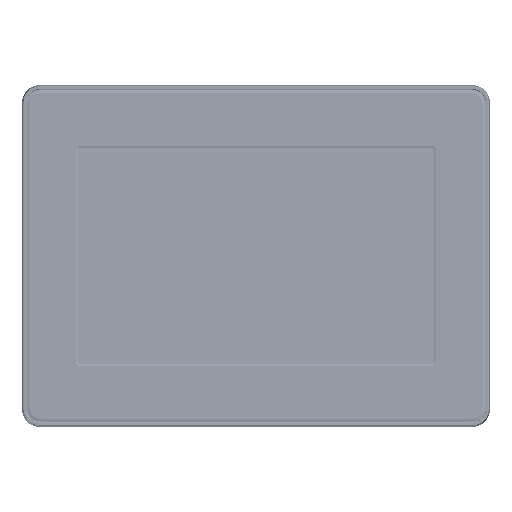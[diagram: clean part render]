
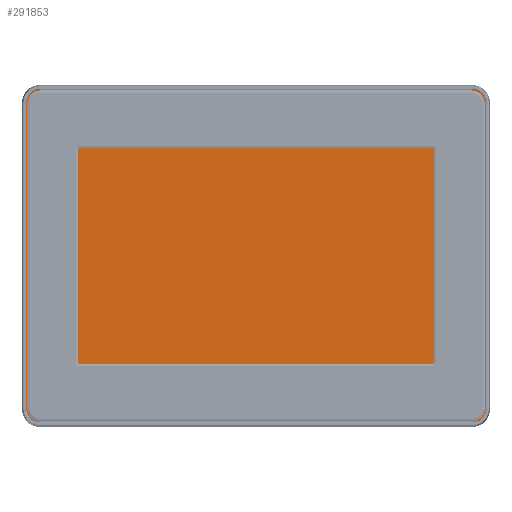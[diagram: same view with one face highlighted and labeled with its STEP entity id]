
A CAD part, top view. The second image highlights one B-rep face of the part: STEP entity #291853.
In plain terms, the highlighted planar face has unit normal (0, 0, 1).
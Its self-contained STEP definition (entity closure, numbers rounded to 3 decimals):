
#291596=CARTESIAN_POINT('',(-94.,72.402,6.2));
#291597=VERTEX_POINT('',#291596);
#291598=CARTESIAN_POINT('',(-99.902,66.5,6.2));
#291599=VERTEX_POINT('',#291598);
#291600=CARTESIAN_POINT('',(-94.0,66.5,6.2));
#291601=DIRECTION('',(0.0,0.0,1.));
#291602=DIRECTION('',(0.,1.,0.0));
#291603=AXIS2_PLACEMENT_3D('',#291600,#291601,#291602);
#291604=CIRCLE('',#291603,5.902);
#291605=EDGE_CURVE('',#291597,#291599,#291604,.T.);
#291640=CARTESIAN_POINT('',(-99.902,-66.5,6.2));
#291641=VERTEX_POINT('',#291640);
#291642=CARTESIAN_POINT('',(-99.902,-66.5,6.2));
#291643=DIRECTION('',(0.0,1.0,0.0));
#291644=VECTOR('',#291643,133.);
#291645=LINE('',#291642,#291644);
#291646=EDGE_CURVE('',#291641,#291599,#291645,.T.);
#291672=CARTESIAN_POINT('',(-94.,-72.402,6.2));
#291673=VERTEX_POINT('',#291672);
#291674=CARTESIAN_POINT('',(-94.0,-66.5,6.2));
#291675=DIRECTION('',(0.0,0.0,1.0));
#291676=DIRECTION('',(-1.,0.,0.0));
#291677=AXIS2_PLACEMENT_3D('',#291674,#291675,#291676);
#291678=CIRCLE('',#291677,5.902);
#291679=EDGE_CURVE('',#291641,#291673,#291678,.T.);
#291706=CARTESIAN_POINT('',(94.,-72.402,6.2));
#291707=VERTEX_POINT('',#291706);
#291708=CARTESIAN_POINT('',(94.,-72.402,6.2));
#291709=DIRECTION('',(-1.0,0.0,0.0));
#291710=VECTOR('',#291709,188.);
#291711=LINE('',#291708,#291710);
#291712=EDGE_CURVE('',#291707,#291673,#291711,.T.);
#291738=CARTESIAN_POINT('',(99.902,-66.5,6.2));
#291739=VERTEX_POINT('',#291738);
#291740=CARTESIAN_POINT('',(94.0,-66.5,6.2));
#291741=DIRECTION('',(0.0,0.0,1.));
#291742=DIRECTION('',(0.,-1.,0.0));
#291743=AXIS2_PLACEMENT_3D('',#291740,#291741,#291742);
#291744=CIRCLE('',#291743,5.902);
#291745=EDGE_CURVE('',#291707,#291739,#291744,.T.);
#291772=CARTESIAN_POINT('',(99.902,66.5,6.2));
#291773=VERTEX_POINT('',#291772);
#291774=CARTESIAN_POINT('',(94.,72.402,6.2));
#291775=VERTEX_POINT('',#291774);
#291776=CARTESIAN_POINT('',(94.0,66.5,6.2));
#291777=DIRECTION('',(0.0,0.0,1.0));
#291778=DIRECTION('',(1.,0.,0.0));
#291779=AXIS2_PLACEMENT_3D('',#291776,#291777,#291778);
#291780=CIRCLE('',#291779,5.902);
#291781=EDGE_CURVE('',#291773,#291775,#291780,.T.);
#291816=CARTESIAN_POINT('',(99.902,66.5,6.2));
#291817=DIRECTION('',(0.0,-1.0,0.0));
#291818=VECTOR('',#291817,133.);
#291819=LINE('',#291816,#291818);
#291820=EDGE_CURVE('',#291773,#291739,#291819,.T.);
#291833=CARTESIAN_POINT('',(0.0,0.0,6.2));
#291834=DIRECTION('',(0.0,0.0,1.0));
#291835=DIRECTION('',(1.0,0.0,0.0));
#291836=AXIS2_PLACEMENT_3D('',#291833,#291834,#291835);
#291837=PLANE('',#291836);
#291838=ORIENTED_EDGE('',*,*,#291820,.F.);
#291839=ORIENTED_EDGE('',*,*,#291781,.T.);
#291840=CARTESIAN_POINT('',(-94.,72.402,6.2));
#291841=DIRECTION('',(1.0,0.0,0.0));
#291842=VECTOR('',#291841,188.);
#291843=LINE('',#291840,#291842);
#291844=EDGE_CURVE('',#291597,#291775,#291843,.T.);
#291845=ORIENTED_EDGE('',*,*,#291844,.F.);
#291846=ORIENTED_EDGE('',*,*,#291605,.T.);
#291847=ORIENTED_EDGE('',*,*,#291646,.F.);
#291848=ORIENTED_EDGE('',*,*,#291679,.T.);
#291849=ORIENTED_EDGE('',*,*,#291712,.F.);
#291850=ORIENTED_EDGE('',*,*,#291745,.T.);
#291851=EDGE_LOOP('',(#291838,#291839,#291845,#291846,#291847,#291848,#291849,#291850));
#291852=FACE_OUTER_BOUND('',#291851,.T.);
#291853=ADVANCED_FACE('',(#291852),#291837,.T.);
